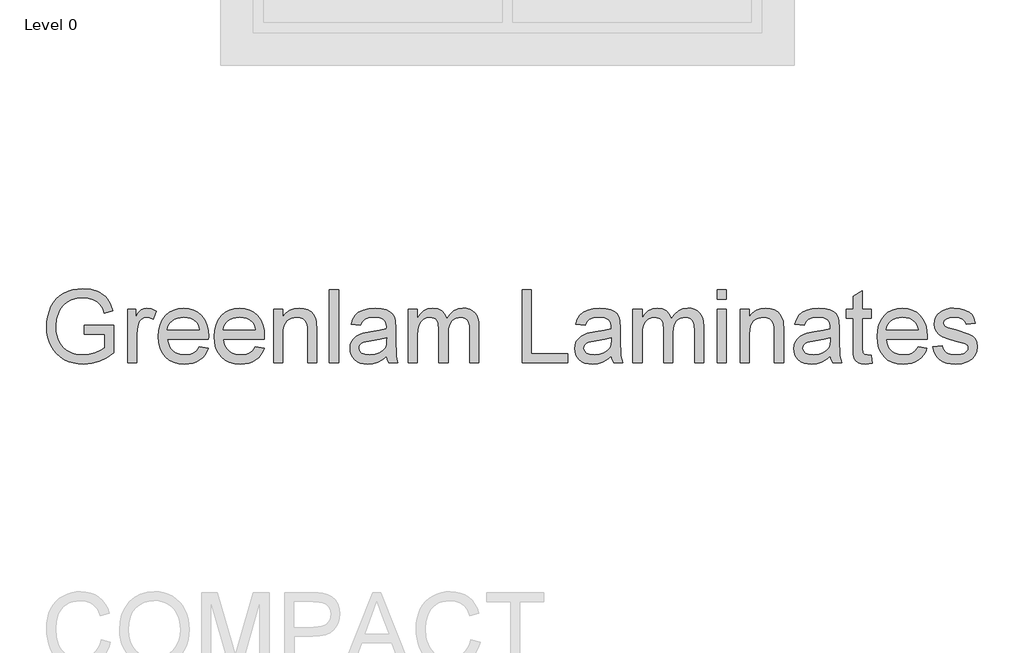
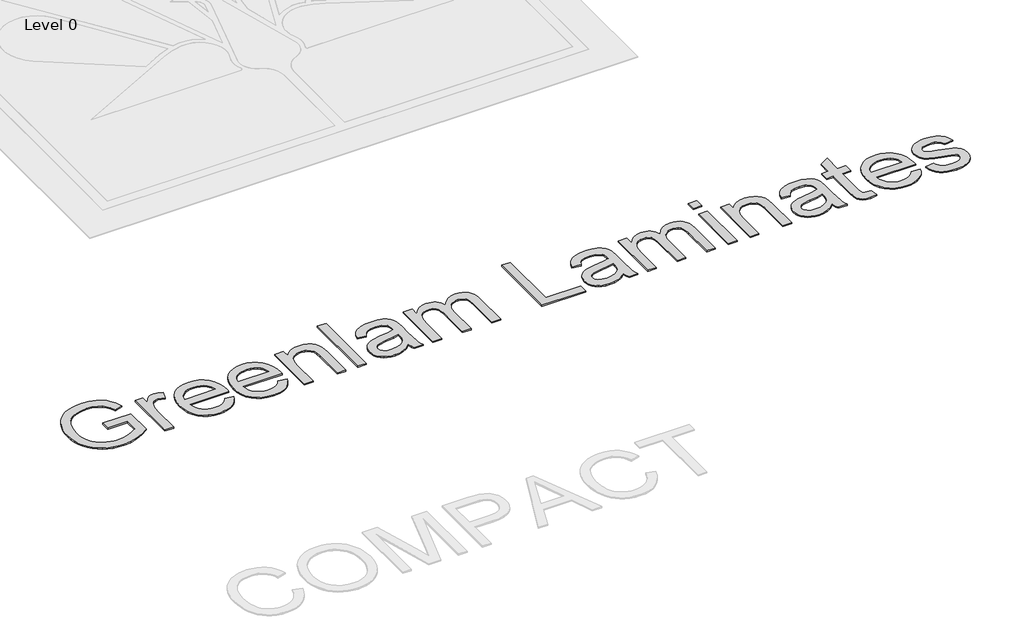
# One storey, part 15 of 15: 1 proxy.
"""IFC4 building model written with IfcOpenShell, lengths in millimetres."""

from ifc_helpers import new_model, si_unit, origin, origin_with_axes, place, context, project, spatial, polyline, outline, extrude, element, save

model = new_model("IFC4")

# Units and contexts
model_context = context("Model", 3, world=origin())
ifc_project = project(units=[si_unit("LENGTHUNIT", "METRE", prefix="MILLI")], contexts=[model_context])

# Site, building, storey
site = spatial("IfcSite", under=ifc_project)
building = spatial("IfcBuilding", under=site)
storey = spatial("IfcBuildingStorey", under=building, Name="Level 0", Elevation=0.0)

# Proxy
placement = place(None, origin())
element("IfcBuildingElementProxy", 1, Name="600mm Arial", ObjectType="600mm Arial", at=placement, inside=storey, context=model_context, shape_type="SweptSolid", body=[
    extrude(outline(polyline([(-10594.9298129, 2995.5724296), (-10594.9298129, 3070.9146622), (-10350.067557, 3070.9146622), (-10350.067557, 2845.6237284), (-10409.5724697, 2804.2370039), (-10470.9535806, 2774.5489269), (-10534.0637368, 2756.6698619), (-10598.7557857, 2750.7101736), (-10642.0325039, 2753.0784139), (-10683.2766741, 2760.183135), (-10722.4882962, 2772.0243367), (-10759.6673704, 2788.6020191), (-10793.6136815, 2809.6678618), (-10823.1270146, 2834.9735446), (-10848.2073696, 2864.5190673), (-10868.8547466, 2898.3044301), (-10884.9817735, 2935.2489794), (-10896.5010785, 2974.2720621), (-10903.4126615, 3015.373678), (-10905.7165225, 3058.5538272), (-10903.4218585, 3101.7385749), (-10896.5378667, 3143.4425975), (-10885.064547, 3183.6658952), (-10869.0018994, 3222.4084678), (-10848.6350324, 3257.9688612), (-10824.2490546, 3288.645621), (-10795.8439661, 3314.4387474), (-10763.4197667, 3335.3482403), (-10727.6800309, 3351.507457), (-10689.3283329, 3363.0497546), (-10648.3646727, 3369.9751331), (-10604.7890504, 3372.2835926), (-10542.7273578, 3366.9309096), (-10486.9196592, 3350.8728605), (-10462.0002525, 3339.1190308), (-10439.9227343, 3325.2682737), (-10420.6871045, 3309.3205892), (-10404.293363, 3291.2759773), (-10377.9346181, 3247.2588966), (-10358.749572, 3191.5799566), (-10428.2056927, 3172.0086345), (-10443.7119188, 3211.7214959), (-10462.5658711, 3241.6854844), (-10487.5082704, 3264.2734389), (-10521.2798375, 3281.8581982), (-10561.5445219, 3293.1705696), (-10605.9662728, 3296.94136), (-10657.9663928, 3292.876264), (-10702.4249319, 3280.6809758), (-10739.1763433, 3261.8822059), (-10768.0550799, 3238.0066644), (-10790.2199701, 3210.2867561), (-10806.8298422, 3179.9548856), (-10824.4881779, 3123.0803291), (-10830.3742899, 3061.6440359), (-10828.6038578, 3024.0235034), (-10823.2925615, 2989.5943472), (-10814.4404009, 2958.3565672), (-10802.0473762, 2930.3101636), (-10786.2744357, 2905.5609024), (-10767.2825277, 2884.2145496), (-10745.0716522, 2866.2711053), (-10719.6418093, 2851.7305695), (-10692.1840169, 2840.496373), (-10663.8892929, 2832.471947), (-10634.7576374, 2827.6572914), (-10604.7890504, 2826.0524062), (-10552.6049894, 2830.8900544), (-10501.7085154, 2845.4029992), (-10457.5074936, 2865.3973856), (-10425.4097896, 2886.679359), (-10425.4097896, 2995.5724296), (-10594.9298129, 2995.5724296)])), origin_with_axes(), (0.0, 0.0, 1.0), 10.0),
    extrude(outline(polyline([(-10237.054208, 2760.1279527), (-10237.054208, 3202.7635693), (-10171.1297545, 3202.7635693), (-10171.1297545, 3137.2805741), (-10146.7759664, 3175.245996), (-10124.3351647, 3197.6132213), (-10101.8207866, 3208.5393166), (-10077.2462693, 3212.1813483), (-10039.7223058, 3206.3688128), (-10001.6097311, 3188.9312062), (-10026.7728596, 3121.3880719), (-10053.2603632, 3132.9763548), (-10079.7478669, 3136.8391157), (-10102.2438509, 3133.1235076), (-10122.3486019, 3121.9766831), (-10138.590592, 3104.244771), (-10149.4982932, 3080.7738997), (-10158.6585549, 3038.6881994), (-10161.7119754, 2992.7765264), (-10161.7119754, 2760.1279527), (-10237.054208, 2760.1279527)])), origin_with_axes(), (0.0, 0.0, 1.0), 10.0),
    extrude(outline(polyline([(-9644.617043, 2891.9768597), (-9570.7463384, 2882.5590807), (-9582.0725053, 2852.9721712), (-9597.3626007, 2826.8985348), (-9616.6166246, 2804.3381714), (-9639.8345771, 2785.2910811), (-9666.7773347, 2770.1619341), (-9697.2057742, 2759.3554005), (-9731.1198956, 2752.8714803), (-9768.519699, 2750.7101736), (-9815.2683035, 2754.4395773), (-9856.9217424, 2765.6277885), (-9893.4800157, 2784.2748071), (-9924.9431233, 2810.3806332), (-9950.2442075, 2843.2186998), (-9968.3164106, 2882.06244), (-9979.1597324, 2926.9118537), (-9982.774173, 2977.766941), (-9979.1229442, 3030.3464752), (-9968.1692578, 3076.6904095), (-9949.9131138, 3116.798744), (-9924.3545121, 3150.6714788), (-9892.9741779, 3177.5820467), (-9857.2528362, 3196.8038809), (-9817.1904869, 3208.3369815), (-9772.7871301, 3212.1813483), (-9729.8139146, 3208.3461785), (-9690.9517803, 3196.8406691), (-9656.2007273, 3177.6648201), (-9625.5607557, 3150.8186315), (-9600.5493785, 3117.0194732), (-9582.6841091, 3076.9847151), (-9571.9649475, 3030.7143572), (-9568.3918936, 2978.2083994), (-9568.833352, 2957.9013133), (-9907.4319404, 2957.9013133), (-9903.0679402, 2927.8361572), (-9894.3905236, 2901.5050034), (-9881.3996907, 2878.9078519), (-9864.0954413, 2860.0447026), (-9843.4342688, 2845.1730729), (-9820.3726662, 2834.5504803), (-9794.9106336, 2828.1769247), (-9767.048171, 2826.0524062), (-9726.9490335, 2829.9887436), (-9693.1774664, 2841.7977556), (-9665.7334695, 2862.2152063), (-9644.617043, 2891.9768597)]), holes=[polyline([(-9907.4319404, 3033.2435459), (-9643.7341262, 3033.2435459), (-9653.9244575, 3073.0483778), (-9662.689246, 3088.7017567), (-9673.9004498, 3101.5224442), (-9694.4466593, 3116.973488), (-9717.82556, 3128.0099478), (-9744.0371522, 3134.6318238), (-9773.0814357, 3136.8391157), (-9799.5735379, 3135.0778807), (-9823.8675452, 3129.7941755), (-9845.9634575, 3120.9880003), (-9865.8612749, 3108.6593549), (-9882.558519, 3093.3784565), (-9895.0527112, 3075.7155222), (-9903.3438517, 3055.670552), (-9907.4319404, 3033.2435459)])]), origin_with_axes(), (0.0, 0.0, 1.0), 10.0),
    extrude(outline(polyline([(-9183.1458683, 2891.9768597), (-9109.2751636, 2882.5590807), (-9120.6013305, 2852.9721712), (-9135.891426, 2826.8985348), (-9155.1454499, 2804.3381714), (-9178.3634023, 2785.2910811), (-9205.3061599, 2770.1619341), (-9235.7345995, 2759.3554005), (-9269.6487209, 2752.8714803), (-9307.0485242, 2750.7101736), (-9353.7971288, 2754.4395773), (-9395.4505677, 2765.6277885), (-9432.0088409, 2784.2748071), (-9463.4719486, 2810.3806332), (-9488.7730328, 2843.2186998), (-9506.8452358, 2882.06244), (-9517.6885576, 2926.9118537), (-9521.3029982, 2977.766941), (-9517.6517694, 3030.3464752), (-9506.698083, 3076.6904095), (-9488.441939, 3116.798744), (-9462.8833374, 3150.6714788), (-9431.5030032, 3177.5820467), (-9395.7816615, 3196.8038809), (-9355.7193122, 3208.3369815), (-9311.3159554, 3212.1813483), (-9268.3427398, 3208.3461785), (-9229.4806055, 3196.8406691), (-9194.7295526, 3177.6648201), (-9164.0895809, 3150.8186315), (-9139.0782038, 3117.0194732), (-9121.2129344, 3076.9847151), (-9110.4937727, 3030.7143572), (-9106.9207189, 2978.2083994), (-9107.3621772, 2957.9013133), (-9445.9607656, 2957.9013133), (-9441.5967654, 2927.8361572), (-9432.9193489, 2901.5050034), (-9419.9285159, 2878.9078519), (-9402.6242666, 2860.0447026), (-9381.963094, 2845.1730729), (-9358.9014915, 2834.5504803), (-9333.4394589, 2828.1769247), (-9305.5769962, 2826.0524062), (-9265.4778588, 2829.9887436), (-9231.7062916, 2841.7977556), (-9204.2622948, 2862.2152063), (-9183.1458683, 2891.9768597)]), holes=[polyline([(-9445.9607656, 3033.2435459), (-9182.2629515, 3033.2435459), (-9192.4532827, 3073.0483778), (-9201.2180713, 3088.7017567), (-9212.4292751, 3101.5224442), (-9232.9754845, 3116.973488), (-9256.3543853, 3128.0099478), (-9282.5659775, 3134.6318238), (-9311.610261, 3136.8391157), (-9338.1023631, 3135.0778807), (-9362.3963704, 3129.7941755), (-9384.4922827, 3120.9880003), (-9404.3901002, 3108.6593549), (-9421.0873442, 3093.3784565), (-9433.5815365, 3075.7155222), (-9441.8726769, 3055.670552), (-9445.9607656, 3033.2435459)])]), origin_with_axes(), (0.0, 0.0, 1.0), 10.0),
    extrude(outline(polyline([(-9031.5784862, 2760.1279527), (-9031.5784862, 3202.7635693), (-8956.2362536, 3202.7635693), (-8956.2362536, 3140.9593941), (-8930.0614497, 3172.1189991), (-8898.6259332, 3194.3758598), (-8861.9297042, 3207.7299762), (-8819.9727626, 3212.1813483), (-8782.8350752, 3208.5944989), (-8748.8243847, 3197.8339505), (-8720.4606829, 3181.2424725), (-8700.2639614, 3160.1628342), (-8686.5603571, 3134.6502179), (-8677.6760069, 3104.7598058), (-8673.7028813, 3031.9191707), (-8673.7028813, 2760.1279527), (-8749.0451139, 2760.1279527), (-8749.0451139, 3021.7656276), (-8751.2156177, 3060.7243309), (-8757.727129, 3088.4258452), (-8769.7384762, 3108.2730788), (-8788.4084874, 3123.6689403), (-8812.3392112, 3133.5465719), (-8840.132696, 3136.8391157), (-8863.0103575, 3134.9905087), (-8884.2601413, 3129.4446876), (-8903.8820472, 3120.2016525), (-8921.8760753, 3107.2614033), (-8936.9086533, 3089.1524121), (-8947.646209, 3064.4031509), (-8954.0887425, 3033.0136196), (-8956.2362536, 2994.9838184), (-8956.2362536, 2760.1279527), (-9031.5784862, 2760.1279527)])), origin_with_axes(), (0.0, 0.0, 1.0), 10.0),
    extrude(outline(polyline([(-8570.1073115, 2760.1279527), (-8570.1073115, 3362.8658136), (-8494.7650789, 3362.8658136), (-8494.7650789, 2760.1279527), (-8570.1073115, 2760.1279527)])), origin_with_axes(), (0.0, 0.0, 1.0), 10.0),
    extrude(outline(polyline([(-8099.2183577, 2816.6346271), (-8135.2156109, 2785.7693277), (-8172.2797219, 2765.5726062), (-8211.2568193, 2754.4257817), (-8252.9930316, 2750.7101736), (-8286.5392711, 2752.9450567), (-8315.9560351, 2759.6497061), (-8341.2433238, 2770.8241217), (-8362.401137, 2786.4683035), (-8379.1075781, 2805.5889702), (-8391.0407503, 2827.1928404), (-8398.2006537, 2851.279914), (-8400.5872881, 2877.8501911), (-8396.9820446, 2909.0833725), (-8386.1663139, 2937.4470743), (-8369.4828654, 2961.727286), (-8348.2744684, 2980.709997), (-8323.3504632, 2995.0573948), (-8295.5201903, 3005.4316671), (-8230.3315007, 3016.7624325), (-8153.297011, 3028.6818092), (-8099.6598161, 3042.661325), (-8099.2183577, 3059.4367439), (-8104.4054938, 3093.0611583), (-8110.889414, 3105.5139638), (-8119.9669022, 3115.0605016), (-8135.6570693, 3124.5886453), (-8154.7685389, 3131.3944622), (-8203.2553859, 3136.8391157), (-8248.1369893, 3133.2154781), (-8279.4805353, 3122.3445651), (-8300.8544792, 3102.2398141), (-8315.8272764, 3070.9146622), (-8391.169509, 3080.3324413), (-8378.0913041, 3121.5352247), (-8358.5751643, 3153.9088403), (-8330.8000736, 3178.6672986), (-8292.9450163, 3197.0246101), (-8246.6470672, 3208.3921638), (-8193.5433012, 3212.1813483), (-8142.610039, 3208.8336222), (-8102.23499, 3198.7904437), (-8071.7927549, 3183.6888878), (-8050.6579343, 3165.1660294), (-8036.6416303, 3142.2653752), (-8027.554945, 3114.030432), (-8023.8761251, 3048.1059785), (-8023.8761251, 2954.3696461), (-8020.0501523, 2823.4772322), (-8014.3847696, 2791.1220108), (-8005.0405669, 2760.1279527), (-8080.3827995, 2760.1279527), (-8092.449329, 2786.3211507), (-8099.2183577, 2816.6346271)]), holes=[polyline([(-8099.2183577, 2967.3190924), (-8149.8389202, 2954.7743163), (-8220.7665689, 2944.2161031), (-8285.5873764, 2932.0024208), (-8302.4547659, 2923.6514995), (-8314.9443596, 2912.1367931), (-8322.6698815, 2898.3412183), (-8325.2450555, 2883.1476919), (-8319.6348551, 2860.7436784), (-8302.8042538, 2842.3863668), (-8275.1211337, 2830.1358964), (-8236.9533767, 2826.0524062), (-8196.4863572, 2830.5589606), (-8160.7282273, 2844.078624), (-8131.739126, 2863.999434), (-8111.5791927, 2887.7094286), (-8102.6396602, 2912.1367931), (-8099.6598161, 2945.9819366), (-8099.2183577, 2967.3190924)])]), origin_with_axes(), (0.0, 0.0, 1.0), 10.0),
    extrude(outline(polyline([(-7920.2805552, 2760.1279527), (-7920.2805552, 3202.7635693), (-7844.9383226, 3202.7635693), (-7844.9383226, 3129.9229342), (-7822.2767917, 3163.3818017), (-7793.1405377, 3189.5933938), (-7758.5228419, 3206.5343597), (-7719.4169858, 3212.1813483), (-7677.5152266, 3206.4239951), (-7659.6821469, 3199.2273036), (-7643.9276004, 3189.1519354), (-7618.8380484, 3161.5056035), (-7602.4305114, 3124.6254335), (-7574.9681204, 3162.9311462), (-7543.6429685, 3190.2923696), (-7508.4550557, 3206.7091037), (-7469.4043819, 3212.1813483), (-7439.2426568, 3209.9050785), (-7412.7689488, 3203.076269), (-7389.9832577, 3191.6949197), (-7370.8855836, 3175.7610308), (-7355.7886262, 3155.0906612), (-7345.0050853, 3129.4998699), (-7338.5349607, 3098.988657), (-7336.3782525, 3063.5570223), (-7336.3782525, 2760.1279527), (-7411.7204851, 2760.1279527), (-7411.7204851, 3031.1834067), (-7413.4679246, 3068.7625525), (-7418.710243, 3094.0912279), (-7428.5326923, 3111.436864), (-7444.0205243, 3125.0668919), (-7463.9413343, 3133.8960598), (-7487.0627177, 3136.8391157), (-7508.413669, 3134.9537205), (-7527.8792251, 3129.2975348), (-7545.4593859, 3119.8705587), (-7561.1541515, 3106.6727921), (-7574.062211, 3089.317959), (-7583.2822535, 3067.4197832), (-7588.814279, 3040.9782648), (-7590.6582875, 3009.9934038), (-7590.6582875, 2760.1279527), (-7666.0005201, 2760.1279527), (-7666.0005201, 3039.5711162), (-7670.3599218, 3082.1718512), (-7675.8091738, 3098.8920879), (-7683.4381267, 3112.5589041), (-7693.5502831, 3123.1814967), (-7706.4491455, 3130.7690628), (-7722.1347141, 3135.3216025), (-7740.6069888, 3136.8391157), (-7769.6328782, 3132.7924138), (-7796.3778992, 3120.6523079), (-7818.4508189, 3100.7131038), (-7833.4604044, 3073.269107), (-7842.068843, 3035.1933205), (-7844.9383226, 2983.3587473), (-7844.9383226, 2760.1279527), (-7920.2805552, 2760.1279527)])), origin_with_axes(), (0.0, 0.0, 1.0), 10.0),
    extrude(outline(polyline([(-6978.5026476, 2760.1279527), (-6978.5026476, 3362.8658136), (-6903.1604149, 3362.8658136), (-6903.1604149, 2835.4701853), (-6601.7914845, 2835.4701853), (-6601.7914845, 2760.1279527), (-6978.5026476, 2760.1279527)])), origin_with_axes(), (0.0, 0.0, 1.0), 10.0),
    extrude(outline(polyline([(-6243.9158796, 2816.6346271), (-6279.9131328, 2785.7693277), (-6316.9772438, 2765.5726062), (-6355.9543412, 2754.4257817), (-6397.6905536, 2750.7101736), (-6431.236793, 2752.9450567), (-6460.653557, 2759.6497061), (-6485.9408457, 2770.8241217), (-6507.0986589, 2786.4683035), (-6523.8051, 2805.5889702), (-6535.7382723, 2827.1928404), (-6542.8981756, 2851.279914), (-6545.28481, 2877.8501911), (-6541.6795665, 2909.0833725), (-6530.8638358, 2937.4470743), (-6514.1803873, 2961.727286), (-6492.9719903, 2980.709997), (-6468.0479852, 2995.0573948), (-6440.2177122, 3005.4316671), (-6375.0290227, 3016.7624325), (-6297.9945329, 3028.6818092), (-6244.357338, 3042.661325), (-6243.9158796, 3059.4367439), (-6249.1030157, 3093.0611583), (-6255.5869359, 3105.5139638), (-6264.6644241, 3115.0605016), (-6280.3545912, 3124.5886453), (-6299.4660609, 3131.3944622), (-6347.9529078, 3136.8391157), (-6392.8345112, 3133.2154781), (-6424.1780572, 3122.3445651), (-6445.5520011, 3102.2398141), (-6460.5247984, 3070.9146622), (-6535.867031, 3080.3324413), (-6522.788826, 3121.5352247), (-6503.2726862, 3153.9088403), (-6475.4975956, 3178.6672986), (-6437.6425383, 3197.0246101), (-6391.3445892, 3208.3921638), (-6338.2408232, 3212.1813483), (-6287.3075609, 3208.8336222), (-6246.932512, 3198.7904437), (-6216.4902768, 3183.6888878), (-6195.3554562, 3165.1660294), (-6181.3391522, 3142.2653752), (-6172.2524669, 3114.030432), (-6168.573647, 3048.1059785), (-6168.573647, 2954.3696461), (-6164.7476742, 2823.4772322), (-6159.0822915, 2791.1220108), (-6149.7380888, 2760.1279527), (-6225.0803214, 2760.1279527), (-6237.1468509, 2786.3211507), (-6243.9158796, 2816.6346271)]), holes=[polyline([(-6243.9158796, 2967.3190924), (-6294.5364421, 2954.7743163), (-6365.4640908, 2944.2161031), (-6430.2848983, 2932.0024208), (-6447.1522878, 2923.6514995), (-6459.6418816, 2912.1367931), (-6467.3674035, 2898.3412183), (-6469.9425774, 2883.1476919), (-6464.332377, 2860.7436784), (-6447.5017757, 2842.3863668), (-6419.8186556, 2830.1358964), (-6381.6508986, 2826.0524062), (-6341.1838791, 2830.5589606), (-6305.4257492, 2844.078624), (-6276.436648, 2863.999434), (-6256.2767146, 2887.7094286), (-6247.3371821, 2912.1367931), (-6244.357338, 2945.9819366), (-6243.9158796, 2967.3190924)])]), origin_with_axes(), (0.0, 0.0, 1.0), 10.0),
    extrude(outline(polyline([(-6064.9780771, 2760.1279527), (-6064.9780771, 3202.7635693), (-5989.6358445, 3202.7635693), (-5989.6358445, 3129.9229342), (-5966.9743136, 3163.3818017), (-5937.8380596, 3189.5933938), (-5903.2203639, 3206.5343597), (-5864.1145078, 3212.1813483), (-5822.2127485, 3206.4239951), (-5804.3796688, 3199.2273036), (-5788.6251224, 3189.1519354), (-5763.5355703, 3161.5056035), (-5747.1280333, 3124.6254335), (-5719.6656424, 3162.9311462), (-5688.3404905, 3190.2923696), (-5653.1525776, 3206.7091037), (-5614.1019038, 3212.1813483), (-5583.9401788, 3209.9050785), (-5557.4664707, 3203.076269), (-5534.6807796, 3191.6949197), (-5515.5831055, 3175.7610308), (-5500.4861482, 3155.0906612), (-5489.7026072, 3129.4998699), (-5483.2324826, 3098.988657), (-5481.0757744, 3063.5570223), (-5481.0757744, 2760.1279527), (-5556.418007, 2760.1279527), (-5556.418007, 3031.1834067), (-5558.1654465, 3068.7625525), (-5563.4077649, 3094.0912279), (-5573.2302142, 3111.436864), (-5588.7180462, 3125.0668919), (-5608.6388562, 3133.8960598), (-5631.7602396, 3136.8391157), (-5653.1111909, 3134.9537205), (-5672.576747, 3129.2975348), (-5690.1569078, 3119.8705587), (-5705.8516734, 3106.6727921), (-5718.759733, 3089.317959), (-5727.9797755, 3067.4197832), (-5733.511801, 3040.9782648), (-5735.3558095, 3009.9934038), (-5735.3558095, 2760.1279527), (-5810.6980421, 2760.1279527), (-5810.6980421, 3039.5711162), (-5815.0574437, 3082.1718512), (-5820.5066958, 3098.8920879), (-5828.1356486, 3112.5589041), (-5838.247805, 3123.1814967), (-5851.1466674, 3130.7690628), (-5866.832236, 3135.3216025), (-5885.3045107, 3136.8391157), (-5914.3304001, 3132.7924138), (-5941.0754212, 3120.6523079), (-5963.1483409, 3100.7131038), (-5978.1579263, 3073.269107), (-5986.766365, 3035.1933205), (-5989.6358445, 2983.3587473), (-5989.6358445, 2760.1279527), (-6064.9780771, 2760.1279527)])), origin_with_axes(), (0.0, 0.0, 1.0), 10.0),
    extrude(outline(polyline([(-5368.0624255, 3287.523581), (-5368.0624255, 3362.8658136), (-5292.7201929, 3362.8658136), (-5292.7201929, 3287.523581), (-5368.0624255, 3287.523581)])), origin_with_axes(), (0.0, 0.0, 1.0), 10.0),
    extrude(outline(polyline([(-5368.0624255, 2760.1279527), (-5368.0624255, 3202.7635693), (-5292.7201929, 3202.7635693), (-5292.7201929, 2760.1279527), (-5368.0624255, 2760.1279527)])), origin_with_axes(), (0.0, 0.0, 1.0), 10.0),
    extrude(outline(polyline([(-5179.7068439, 2760.1279527), (-5179.7068439, 3202.7635693), (-5104.3646113, 3202.7635693), (-5104.3646113, 3140.9593941), (-5078.1898074, 3172.1189991), (-5046.7542909, 3194.3758598), (-5010.0580619, 3207.7299762), (-4968.1011203, 3212.1813483), (-4930.9634329, 3208.5944989), (-4896.9527424, 3197.8339505), (-4868.5890406, 3181.2424725), (-4848.3923191, 3160.1628342), (-4834.6887148, 3134.6502179), (-4825.8043646, 3104.7598058), (-4821.831239, 3031.9191707), (-4821.831239, 2760.1279527), (-4897.1734716, 2760.1279527), (-4897.1734716, 3021.7656276), (-4899.3439754, 3060.7243309), (-4905.8554867, 3088.4258452), (-4917.8668339, 3108.2730788), (-4936.5368451, 3123.6689403), (-4960.4675689, 3133.5465719), (-4988.2610537, 3136.8391157), (-5011.1387152, 3134.9905087), (-5032.388499, 3129.4446876), (-5052.0104049, 3120.2016525), (-5070.004433, 3107.2614033), (-5085.037011, 3089.1524121), (-5095.7745667, 3064.4031509), (-5102.2171002, 3033.0136196), (-5104.3646113, 2994.9838184), (-5104.3646113, 2760.1279527), (-5179.7068439, 2760.1279527)])), origin_with_axes(), (0.0, 0.0, 1.0), 10.0),
    extrude(outline(polyline([(-4435.7022969, 2816.6346271), (-4471.6995501, 2785.7693277), (-4508.7636611, 2765.5726062), (-4547.7407585, 2754.4257817), (-4589.4769709, 2750.7101736), (-4623.0232103, 2752.9450567), (-4652.4399744, 2759.6497061), (-4677.727263, 2770.8241217), (-4698.8850762, 2786.4683035), (-4715.5915174, 2805.5889702), (-4727.5246896, 2827.1928404), (-4734.6845929, 2851.279914), (-4737.0712273, 2877.8501911), (-4733.4659838, 2909.0833725), (-4722.6502531, 2937.4470743), (-4705.9668047, 2961.727286), (-4684.7584076, 2980.709997), (-4659.8344025, 2995.0573948), (-4632.0041295, 3005.4316671), (-4566.81544, 3016.7624325), (-4489.7809502, 3028.6818092), (-4436.1437553, 3042.661325), (-4435.7022969, 3059.4367439), (-4440.889433, 3093.0611583), (-4447.3733532, 3105.5139638), (-4456.4508414, 3115.0605016), (-4472.1410085, 3124.5886453), (-4491.2524782, 3131.3944622), (-4539.7393251, 3136.8391157), (-4584.6209285, 3133.2154781), (-4615.9644745, 3122.3445651), (-4637.3384185, 3102.2398141), (-4652.3112157, 3070.9146622), (-4727.6534483, 3080.3324413), (-4714.5752433, 3121.5352247), (-4695.0591035, 3153.9088403), (-4667.2840129, 3178.6672986), (-4629.4289556, 3197.0246101), (-4583.1310065, 3208.3921638), (-4530.0272405, 3212.1813483), (-4479.0939782, 3208.8336222), (-4438.7189293, 3198.7904437), (-4408.2766942, 3183.6888878), (-4387.1418735, 3165.1660294), (-4373.1255695, 3142.2653752), (-4364.0388842, 3114.030432), (-4360.3600643, 3048.1059785), (-4360.3600643, 2954.3696461), (-4356.5340915, 2823.4772322), (-4350.8687088, 2791.1220108), (-4341.5245061, 2760.1279527), (-4416.8667387, 2760.1279527), (-4428.9332682, 2786.3211507), (-4435.7022969, 2816.6346271)]), holes=[polyline([(-4435.7022969, 2967.3190924), (-4486.3228594, 2954.7743163), (-4557.2505081, 2944.2161031), (-4622.0713157, 2932.0024208), (-4638.9387051, 2923.6514995), (-4651.4282989, 2912.1367931), (-4659.1538208, 2898.3412183), (-4661.7289947, 2883.1476919), (-4656.1187943, 2860.7436784), (-4639.288193, 2842.3863668), (-4611.6050729, 2830.1358964), (-4573.4373159, 2826.0524062), (-4532.9702964, 2830.5589606), (-4497.2121665, 2844.078624), (-4468.2230653, 2863.999434), (-4448.0631319, 2887.7094286), (-4439.1235995, 2912.1367931), (-4436.1437553, 2945.9819366), (-4435.7022969, 2967.3190924)])]), origin_with_axes(), (0.0, 0.0, 1.0), 10.0),
    extrude(outline(polyline([(-4096.6622501, 2822.9621974), (-4087.2444711, 2757.9206607), (-4143.6039927, 2750.7101736), (-4179.7667929, 2753.8371706), (-4206.7325431, 2763.2181614), (-4225.7888304, 2777.6759238), (-4238.2232419, 2796.0332354), (-4245.065847, 2827.5607224), (-4247.3467154, 2881.5290111), (-4247.3467154, 3127.4213367), (-4303.8533898, 3127.4213367), (-4303.8533898, 3202.7635693), (-4247.3467154, 3202.7635693), (-4247.3467154, 3310.3322647), (-4172.0044828, 3354.6252569), (-4172.0044828, 3202.7635693), (-4096.6622501, 3202.7635693), (-4096.6622501, 3127.4213367), (-4172.0044828, 3127.4213367), (-4172.0044828, 2883.7363031), (-4168.0313572, 2844.8879644), (-4155.1554874, 2831.1291777), (-4144.2845744, 2827.3215991), (-4129.4773241, 2826.0524062), (-4096.6622501, 2822.9621974)])), origin_with_axes(), (0.0, 0.0, 1.0), 10.0),
    extrude(outline(polyline([(-3711.4162248, 2891.9768597), (-3637.5455202, 2882.5590807), (-3648.8716871, 2852.9721712), (-3664.1617825, 2826.8985348), (-3683.4158064, 2804.3381714), (-3706.6337589, 2785.2910811), (-3733.5765165, 2770.1619341), (-3764.004956, 2759.3554005), (-3797.9190774, 2752.8714803), (-3835.3188808, 2750.7101736), (-3882.0674853, 2754.4395773), (-3923.7209242, 2765.6277885), (-3960.2791975, 2784.2748071), (-3991.7423051, 2810.3806332), (-4017.0433893, 2843.2186998), (-4035.1155923, 2882.06244), (-4045.9589142, 2926.9118537), (-4049.5733548, 2977.766941), (-4045.922126, 3030.3464752), (-4034.9684396, 3076.6904095), (-4016.7122955, 3116.798744), (-3991.1536939, 3150.6714788), (-3959.7733597, 3177.5820467), (-3924.052018, 3196.8038809), (-3883.9896687, 3208.3369815), (-3839.5863119, 3212.1813483), (-3796.6130964, 3208.3461785), (-3757.7509621, 3196.8406691), (-3722.9999091, 3177.6648201), (-3692.3599374, 3150.8186315), (-3667.3485603, 3117.0194732), (-3649.4832909, 3076.9847151), (-3638.7641293, 3030.7143572), (-3635.1910754, 2978.2083994), (-3635.6325338, 2957.9013133), (-3974.2311221, 2957.9013133), (-3969.867122, 2927.8361572), (-3961.1897054, 2901.5050034), (-3948.1988725, 2878.9078519), (-3930.8946231, 2860.0447026), (-3910.2334506, 2845.1730729), (-3887.171848, 2834.5504803), (-3861.7098154, 2828.1769247), (-3833.8473528, 2826.0524062), (-3793.7482153, 2829.9887436), (-3759.9766482, 2841.7977556), (-3732.5326513, 2862.2152063), (-3711.4162248, 2891.9768597)]), holes=[polyline([(-3974.2311221, 3033.2435459), (-3710.533308, 3033.2435459), (-3720.7236393, 3073.0483778), (-3729.4884278, 3088.7017567), (-3740.6996316, 3101.5224442), (-3761.245841, 3116.973488), (-3784.6247418, 3128.0099478), (-3810.836334, 3134.6318238), (-3839.8806175, 3136.8391157), (-3866.3727197, 3135.0778807), (-3890.6667269, 3129.7941755), (-3912.7626393, 3120.9880003), (-3932.6604567, 3108.6593549), (-3949.3577007, 3093.3784565), (-3961.851893, 3075.7155222), (-3970.1430335, 3055.670552), (-3974.2311221, 3033.2435459)])]), origin_with_axes(), (0.0, 0.0, 1.0), 10.0),
    extrude(outline(polyline([(-3588.10218, 2891.9768597), (-3512.7599474, 2901.3946388), (-3508.2074077, 2884.2145496), (-3500.877359, 2869.168176), (-3490.7698011, 2856.255518), (-3477.8847343, 2845.4765756), (-3462.1853701, 2836.9785015), (-3443.6349205, 2830.9084485), (-3397.9807649, 2826.0524062), (-3352.8784323, 2830.5037783), (-3335.3488552, 2836.0679935), (-3321.1670043, 2843.8578948), (-3302.4050226, 2863.2084877), (-3297.7145271, 2874.0426125), (-3296.1510286, 2885.6492894), (-3297.7237242, 2895.8212266), (-3302.4418108, 2904.8527296), (-3321.3141571, 2919.494433), (-3349.5307061, 2929.0593649), (-3398.8636817, 2940.9787415), (-3467.6208266, 2960.8627633), (-3512.318489, 2977.8405174), (-3541.0316787, 2996.3633759), (-3561.8354056, 3020.8827109), (-3574.4721521, 3049.8350239), (-3578.6844009, 3081.6568165), (-3575.2998866, 3110.8482528), (-3565.1463435, 3137.7956089), (-3549.1434767, 3161.4320271), (-3528.2109912, 3180.6906496), (-3507.4072644, 3192.8123613), (-3480.3127554, 3202.9842985), (-3448.9876035, 3209.8820859), (-3415.4919479, 3212.1813483), (-3366.4532779, 3208.4841343), (-3323.8157547, 3197.3924921), (-3289.5291527, 3179.9916738), (-3265.5432466, 3157.3669311), (-3249.6507444, 3127.844401), (-3239.6443542, 3089.7502203), (-3314.9865868, 3080.3324413), (-3324.4963364, 3104.0424359), (-3343.3135004, 3121.9031067), (-3371.6220199, 3133.1051135), (-3409.605836, 3136.8391157), (-3452.8687586, 3133.2706604), (-3481.710707, 3122.5652943), (-3497.934303, 3107.1142505), (-3503.3421683, 3089.308762), (-3501.0980882, 3077.7204791), (-3494.3658476, 3067.382995), (-3482.8511412, 3058.149157), (-3466.2596632, 3050.7547289), (-3401.3652793, 3034.7150739), (-3290.7799515, 2999.2512495), (-3261.5701211, 2982.2918896), (-3239.423625, 2959.0785357), (-3225.4625033, 2929.5376115), (-3220.808796, 2893.5955405), (-3226.2718437, 2856.439459), (-3242.6609865, 2821.4906695), (-3269.3508253, 2791.4898928), (-3305.7159605, 2769.1778498), (-3349.6410707, 2755.3270926), (-3399.0108345, 2750.7101736), (-3439.5606274, 2752.9358597), (-3474.9784665, 2759.6129179), (-3505.2643517, 2770.7413482), (-3530.4182832, 2786.3211507), (-3550.9644926, 2806.278749), (-3567.4272119, 2830.5405665), (-3579.806441, 2859.1066035), (-3588.10218, 2891.9768597)])), origin_with_axes(), (0.0, 0.0, 1.0), 10.0),
])

save(model, "model.ifc")
